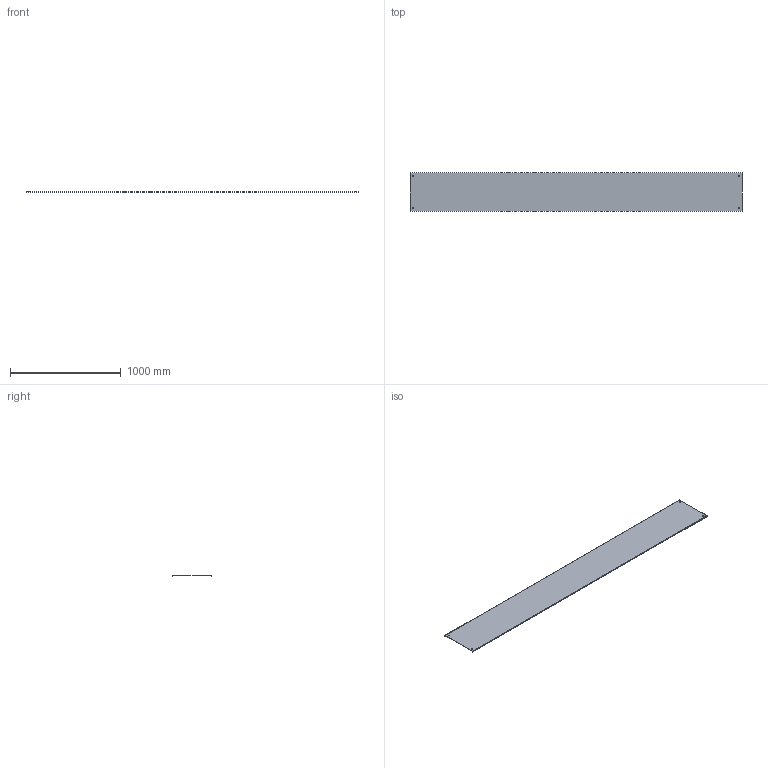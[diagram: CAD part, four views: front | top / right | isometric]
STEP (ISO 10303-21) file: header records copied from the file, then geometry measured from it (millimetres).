
FILE_DESCRIPTION(/* description */ ('','CAx-IF Rec.Pracs.---Representation and Presentation of Product Manufacturing Information (PMI)---4.0---2014-10-13'),/* implementation_level */ '2;1');
FILE_NAME(/* name */ 'Eurostrut_ECLSC-300_Straight Cover for Cable Ladder ECL.step',/* time_stamp */ '2026-09-08T14:26:30+02:00',/* author */ (''),/* organization */ (''),/* preprocessor_version */ 'ST-DEVELOPER v20.1',/* originating_system */ 'Autodesk Revit 2027 27.2.0.39',/* authorisation */ '');
FILE_SCHEMA (('AP242_MANAGED_MODEL_BASED_3D_ENGINEERING_MIM_LF { 1 0 10303 442 2 1 4 }'));
Length unit declared in the file: millimetre
Products named in the file (2): TopLevelAssembly; Extrusion
Assembly tree (1 placements, depth 2):
  TopLevelAssembly
    Extrusion
Bounding box: 3000 x 350 x 9 mm (x, y, z)
Volume: 1642028.8 mm3; surface area: 2199655.2 mm2
Topology: 1 solids, 1 shells, 18 faces, 48 edges, 32 vertices
Faces by surface type: plane 10, cylinder 8
Entity records: 618 total; most frequent: DIRECTION 106, CARTESIAN_POINT 101, ORIENTED_EDGE 96, EDGE_CURVE 48, AXIS2_PLACEMENT_3D 37, LINE 32, VECTOR 32, VERTEX_POINT 32
